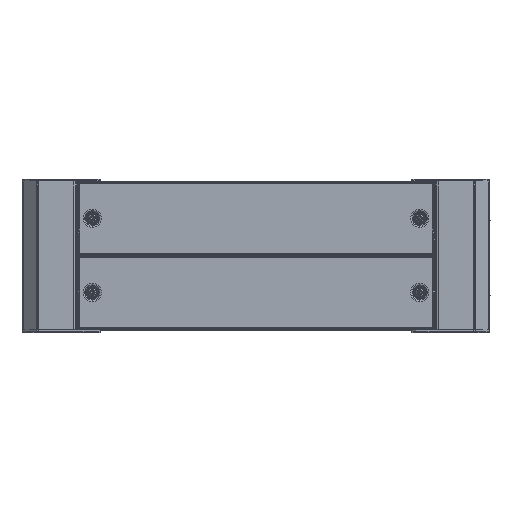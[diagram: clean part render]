
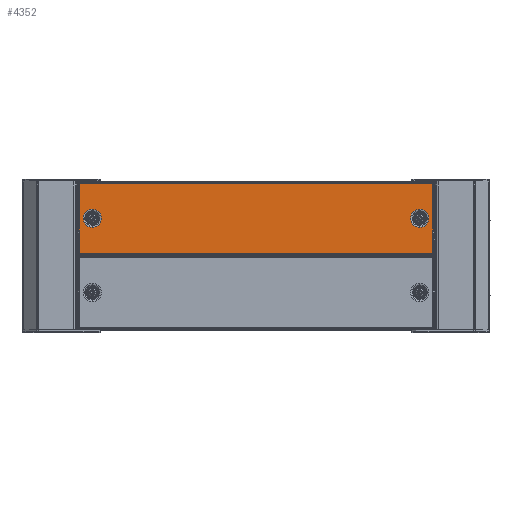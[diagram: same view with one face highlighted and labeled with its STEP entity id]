
A CAD part, top view. The second image highlights one B-rep face of the part: STEP entity #4352.
In plain terms, the highlighted planar face has unit normal (0, 0, 1) as drawn and (0, -1, 0) by its records, which use the part's own axes.
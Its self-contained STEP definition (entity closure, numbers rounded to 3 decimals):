
#11 = CARTESIAN_POINT ( 'NONE',  ( -226.6, 0., 44.6 ) ) ;
#196 = VECTOR ( 'NONE', #1550, 1000. ) ;
#377 = FACE_OUTER_BOUND ( 'NONE', #5202, .T. ) ;
#755 = CIRCLE ( 'NONE', #1125, 11.657 ) ;
#1125 = AXIS2_PLACEMENT_3D ( 'NONE', #5484, #1230, #3131 ) ;
#1230 = DIRECTION ( 'NONE',  ( 0., 1., 0. ) ) ;
#1326 = CARTESIAN_POINT ( 'NONE',  ( 226.6, 0., 44.6 ) ) ;
#1439 = CARTESIAN_POINT ( 'NONE',  ( -226.6, 0., -44.6 ) ) ;
#1550 = DIRECTION ( 'NONE',  ( 0., 0., -1. ) ) ;
#1566 = EDGE_CURVE ( 'NONE', #8886, #3063, #3566, .T. ) ;
#1886 = DIRECTION ( 'NONE',  ( 0., 0., 1. ) ) ;
#2160 = CARTESIAN_POINT ( 'NONE',  ( 209.75, 0., 11.657 ) ) ;
#2196 = PLANE ( 'NONE',  #5523 ) ;
#2864 = EDGE_CURVE ( 'NONE', #6960, #8964, #7732, .T. ) ;
#2956 = FACE_BOUND ( 'NONE', #4667, .T. ) ;
#3063 = VERTEX_POINT ( 'NONE', #4577 ) ;
#3131 = DIRECTION ( 'NONE',  ( 0., 0., 1. ) ) ;
#3264 = DIRECTION ( 'NONE',  ( 0., 0., 1. ) ) ;
#3285 = AXIS2_PLACEMENT_3D ( 'NONE', #4013, #7499, #3264 ) ;
#3382 = ORIENTED_EDGE ( 'NONE', *, *, #5926, .T. ) ;
#3501 = CARTESIAN_POINT ( 'NONE',  ( -226.6, 0., 47. ) ) ;
#3564 = CARTESIAN_POINT ( 'NONE',  ( -209.75, 0., 0. ) ) ;
#3566 = LINE ( 'NONE', #7959, #9635 ) ;
#3798 = DIRECTION ( 'NONE',  ( 0., 0., 1. ) ) ;
#3810 = ORIENTED_EDGE ( 'NONE', *, *, #4766, .T. ) ;
#4013 = CARTESIAN_POINT ( 'NONE',  ( 209.75, 0., 0. ) ) ;
#4049 = FACE_BOUND ( 'NONE', #10578, .T. ) ;
#4305 = LINE ( 'NONE', #3501, #196 ) ;
#4352 = ADVANCED_FACE ( 'NONE', ( #4049, #377, #2956 ), #2196, .T. ) ;
#4529 = CIRCLE ( 'NONE', #5998, 11.657 ) ;
#4577 = CARTESIAN_POINT ( 'NONE',  ( 226.6, 0., -44.6 ) ) ;
#4667 = EDGE_LOOP ( 'NONE', ( #3810, #7963 ) ) ;
#4766 = EDGE_CURVE ( 'NONE', #7179, #7869, #6937, .T. ) ;
#4908 = ORIENTED_EDGE ( 'NONE', *, *, #6043, .F. ) ;
#4959 = CARTESIAN_POINT ( 'NONE',  ( -229., 0., 47. ) ) ;
#5202 = EDGE_LOOP ( 'NONE', ( #3382, #7855, #4908, #8679 ) ) ;
#5484 = CARTESIAN_POINT ( 'NONE',  ( 209.75, 0., 0. ) ) ;
#5523 = AXIS2_PLACEMENT_3D ( 'NONE', #4959, #7415, #10136 ) ;
#5926 = EDGE_CURVE ( 'NONE', #8964, #8886, #4305, .T. ) ;
#5998 = AXIS2_PLACEMENT_3D ( 'NONE', #6317, #9873, #3798 ) ;
#6043 = EDGE_CURVE ( 'NONE', #6960, #3063, #8010, .T. ) ;
#6317 = CARTESIAN_POINT ( 'NONE',  ( -209.75, 0., 0. ) ) ;
#6448 = EDGE_CURVE ( 'NONE', #7869, #7179, #755, .T. ) ;
#6937 = CIRCLE ( 'NONE', #3285, 11.657 ) ;
#6960 = VERTEX_POINT ( 'NONE', #1326 ) ;
#6992 = DIRECTION ( 'NONE',  ( 0., -1., 0. ) ) ;
#7179 = VERTEX_POINT ( 'NONE', #2160 ) ;
#7415 = DIRECTION ( 'NONE',  ( 0., -1., 0. ) ) ;
#7499 = DIRECTION ( 'NONE',  ( 0., 1., 0. ) ) ;
#7575 = CARTESIAN_POINT ( 'NONE',  ( -209.75, 0., -11.657 ) ) ;
#7732 = LINE ( 'NONE', #9465, #8289 ) ;
#7855 = ORIENTED_EDGE ( 'NONE', *, *, #1566, .T. ) ;
#7869 = VERTEX_POINT ( 'NONE', #10240 ) ;
#7959 = CARTESIAN_POINT ( 'NONE',  ( -226.6, 0., -44.6 ) ) ;
#7963 = ORIENTED_EDGE ( 'NONE', *, *, #6448, .T. ) ;
#7968 = CARTESIAN_POINT ( 'NONE',  ( -209.75, 0., 11.657 ) ) ;
#8010 = LINE ( 'NONE', #8826, #11213 ) ;
#8147 = DIRECTION ( 'NONE',  ( 0., 0., -1. ) ) ;
#8289 = VECTOR ( 'NONE', #10340, 1000. ) ;
#8679 = ORIENTED_EDGE ( 'NONE', *, *, #2864, .T. ) ;
#8782 = ORIENTED_EDGE ( 'NONE', *, *, #11264, .F. ) ;
#8826 = CARTESIAN_POINT ( 'NONE',  ( 226.6, 0., 47. ) ) ;
#8886 = VERTEX_POINT ( 'NONE', #1439 ) ;
#8943 = CIRCLE ( 'NONE', #10609, 11.657 ) ;
#8964 = VERTEX_POINT ( 'NONE', #11 ) ;
#9465 = CARTESIAN_POINT ( 'NONE',  ( 226.6, 0., 44.6 ) ) ;
#9527 = DIRECTION ( 'NONE',  ( 1., 0., 0. ) ) ;
#9635 = VECTOR ( 'NONE', #9527, 1000. ) ;
#9728 = ORIENTED_EDGE ( 'NONE', *, *, #10098, .F. ) ;
#9873 = DIRECTION ( 'NONE',  ( 0., -1., 0. ) ) ;
#10098 = EDGE_CURVE ( 'NONE', #10794, #10190, #4529, .T. ) ;
#10136 = DIRECTION ( 'NONE',  ( 0., 0., -1. ) ) ;
#10190 = VERTEX_POINT ( 'NONE', #7575 ) ;
#10240 = CARTESIAN_POINT ( 'NONE',  ( 209.75, 0., -11.657 ) ) ;
#10340 = DIRECTION ( 'NONE',  ( -1., 0., 0. ) ) ;
#10578 = EDGE_LOOP ( 'NONE', ( #9728, #8782 ) ) ;
#10609 = AXIS2_PLACEMENT_3D ( 'NONE', #3564, #6992, #1886 ) ;
#10794 = VERTEX_POINT ( 'NONE', #7968 ) ;
#11213 = VECTOR ( 'NONE', #8147, 1000. ) ;
#11264 = EDGE_CURVE ( 'NONE', #10190, #10794, #8943, .T. ) ;
